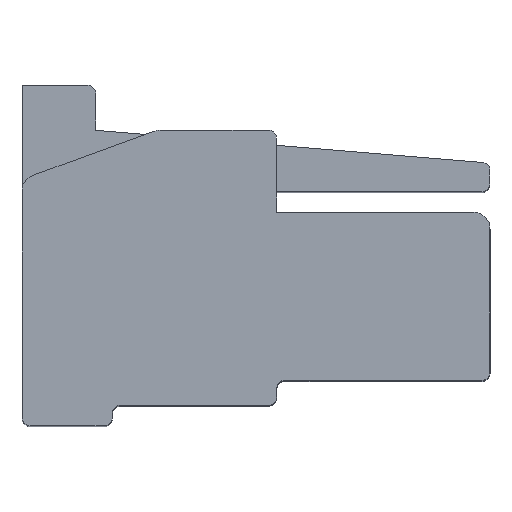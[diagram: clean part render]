
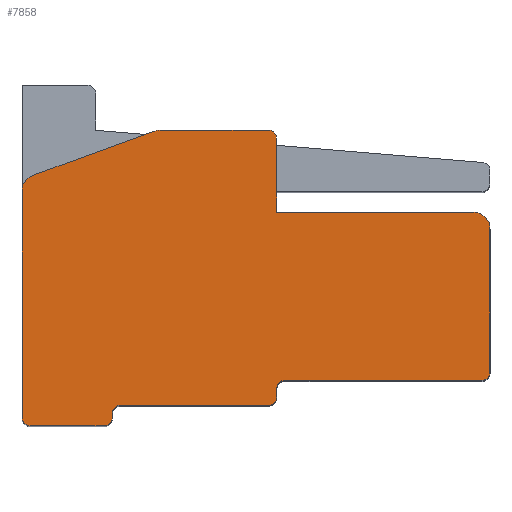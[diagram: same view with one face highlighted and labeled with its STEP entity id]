
A CAD part, top view. The second image highlights one B-rep face of the part: STEP entity #7858.
In plain terms, the highlighted planar face has unit normal (0, 0, 1).
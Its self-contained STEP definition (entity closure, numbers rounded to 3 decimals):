
#190=PLANE('',#8427);
#459=FACE_OUTER_BOUND('',#874,.T.);
#874=EDGE_LOOP('',(#5555,#5556,#5557,#5558,#5559,#5560,#5561,#5562,#5563,
#5564,#5565,#5566,#5567,#5568,#5569,#5570,#5571,#5572,#5573,#5574,#5575));
#1395=LINE('',#11854,#2289);
#1426=LINE('',#11920,#2320);
#1427=LINE('',#11924,#2321);
#1428=LINE('',#11928,#2322);
#1429=LINE('',#11932,#2323);
#1430=LINE('',#11936,#2324);
#1431=LINE('',#11940,#2325);
#1432=LINE('',#11944,#2326);
#1433=LINE('',#11948,#2327);
#1434=LINE('',#11952,#2328);
#1435=LINE('',#11955,#2329);
#2289=VECTOR('',#9454,10.);
#2320=VECTOR('',#9493,10.);
#2321=VECTOR('',#9496,10.);
#2322=VECTOR('',#9499,10.);
#2323=VECTOR('',#9502,10.);
#2324=VECTOR('',#9505,10.);
#2325=VECTOR('',#9508,10.);
#2326=VECTOR('',#9511,10.);
#2327=VECTOR('',#9514,10.);
#2328=VECTOR('',#9517,10.);
#2329=VECTOR('',#9520,10.);
#3097=CIRCLE('',#8425,0.1);
#3099=CIRCLE('',#8428,0.2);
#3100=CIRCLE('',#8429,0.2);
#3101=CIRCLE('',#8430,0.1);
#3102=CIRCLE('',#8431,0.1);
#3103=CIRCLE('',#8432,0.1);
#3104=CIRCLE('',#8433,0.1);
#3105=CIRCLE('',#8434,0.1);
#3106=CIRCLE('',#8435,0.1);
#3107=CIRCLE('',#8436,0.2);
#3444=VERTEX_POINT('',#11851);
#3445=VERTEX_POINT('',#11853);
#3474=VERTEX_POINT('',#11913);
#3476=VERTEX_POINT('',#11919);
#3477=VERTEX_POINT('',#11921);
#3478=VERTEX_POINT('',#11923);
#3479=VERTEX_POINT('',#11925);
#3480=VERTEX_POINT('',#11927);
#3481=VERTEX_POINT('',#11929);
#3482=VERTEX_POINT('',#11931);
#3483=VERTEX_POINT('',#11933);
#3484=VERTEX_POINT('',#11935);
#3485=VERTEX_POINT('',#11937);
#3486=VERTEX_POINT('',#11939);
#3487=VERTEX_POINT('',#11941);
#3488=VERTEX_POINT('',#11943);
#3489=VERTEX_POINT('',#11945);
#3490=VERTEX_POINT('',#11947);
#3491=VERTEX_POINT('',#11949);
#3492=VERTEX_POINT('',#11951);
#3493=VERTEX_POINT('',#11953);
#4264=EDGE_CURVE('',#3445,#3444,#1395,.T.);
#4294=EDGE_CURVE('',#3474,#3444,#3097,.T.);
#4297=EDGE_CURVE('',#3474,#3476,#1426,.T.);
#4298=EDGE_CURVE('',#3477,#3476,#3099,.T.);
#4299=EDGE_CURVE('',#3477,#3478,#1427,.T.);
#4300=EDGE_CURVE('',#3479,#3478,#3100,.T.);
#4301=EDGE_CURVE('',#3479,#3480,#1428,.T.);
#4302=EDGE_CURVE('',#3481,#3480,#3101,.T.);
#4303=EDGE_CURVE('',#3481,#3482,#1429,.T.);
#4304=EDGE_CURVE('',#3483,#3482,#3102,.T.);
#4305=EDGE_CURVE('',#3483,#3484,#1430,.T.);
#4306=EDGE_CURVE('',#3485,#3484,#3103,.T.);
#4307=EDGE_CURVE('',#3485,#3486,#1431,.T.);
#4308=EDGE_CURVE('',#3487,#3486,#3104,.T.);
#4309=EDGE_CURVE('',#3487,#3488,#1432,.T.);
#4310=EDGE_CURVE('',#3489,#3488,#3105,.T.);
#4311=EDGE_CURVE('',#3489,#3490,#1433,.T.);
#4312=EDGE_CURVE('',#3491,#3490,#3106,.T.);
#4313=EDGE_CURVE('',#3491,#3492,#1434,.T.);
#4314=EDGE_CURVE('',#3493,#3492,#3107,.T.);
#4315=EDGE_CURVE('',#3493,#3445,#1435,.T.);
#5555=ORIENTED_EDGE('',*,*,#4294,.F.);
#5556=ORIENTED_EDGE('',*,*,#4297,.T.);
#5557=ORIENTED_EDGE('',*,*,#4298,.F.);
#5558=ORIENTED_EDGE('',*,*,#4299,.T.);
#5559=ORIENTED_EDGE('',*,*,#4300,.F.);
#5560=ORIENTED_EDGE('',*,*,#4301,.T.);
#5561=ORIENTED_EDGE('',*,*,#4302,.F.);
#5562=ORIENTED_EDGE('',*,*,#4303,.T.);
#5563=ORIENTED_EDGE('',*,*,#4304,.F.);
#5564=ORIENTED_EDGE('',*,*,#4305,.T.);
#5565=ORIENTED_EDGE('',*,*,#4306,.F.);
#5566=ORIENTED_EDGE('',*,*,#4307,.T.);
#5567=ORIENTED_EDGE('',*,*,#4308,.F.);
#5568=ORIENTED_EDGE('',*,*,#4309,.T.);
#5569=ORIENTED_EDGE('',*,*,#4310,.F.);
#5570=ORIENTED_EDGE('',*,*,#4311,.T.);
#5571=ORIENTED_EDGE('',*,*,#4312,.F.);
#5572=ORIENTED_EDGE('',*,*,#4313,.T.);
#5573=ORIENTED_EDGE('',*,*,#4314,.F.);
#5574=ORIENTED_EDGE('',*,*,#4315,.T.);
#5575=ORIENTED_EDGE('',*,*,#4264,.T.);
#7858=ADVANCED_FACE('',(#459),#190,.T.);
#8425=AXIS2_PLACEMENT_3D('',#11914,#9486,#9487);
#8427=AXIS2_PLACEMENT_3D('',#11918,#9491,#9492);
#8428=AXIS2_PLACEMENT_3D('',#11922,#9494,#9495);
#8429=AXIS2_PLACEMENT_3D('',#11926,#9497,#9498);
#8430=AXIS2_PLACEMENT_3D('',#11930,#9500,#9501);
#8431=AXIS2_PLACEMENT_3D('',#11934,#9503,#9504);
#8432=AXIS2_PLACEMENT_3D('',#11938,#9506,#9507);
#8433=AXIS2_PLACEMENT_3D('',#11942,#9509,#9510);
#8434=AXIS2_PLACEMENT_3D('',#11946,#9512,#9513);
#8435=AXIS2_PLACEMENT_3D('',#11950,#9515,#9516);
#8436=AXIS2_PLACEMENT_3D('',#11954,#9518,#9519);
#9454=DIRECTION('',(0.,1.,0.));
#9486=DIRECTION('center_axis',(0.,0.,-1.));
#9487=DIRECTION('ref_axis',(0.707,0.707,0.));
#9491=DIRECTION('center_axis',(0.,0.,1.));
#9492=DIRECTION('ref_axis',(1.,0.,0.));
#9493=DIRECTION('',(-1.,0.,0.));
#9494=DIRECTION('center_axis',(0.,0.,-1.));
#9495=DIRECTION('ref_axis',(-0.174,0.985,0.));
#9496=DIRECTION('',(-0.94,-0.342,0.));
#9497=DIRECTION('center_axis',(0.,0.,-1.));
#9498=DIRECTION('ref_axis',(-0.819,0.574,0.));
#9499=DIRECTION('',(0.,-1.,0.));
#9500=DIRECTION('center_axis',(0.,0.,-1.));
#9501=DIRECTION('ref_axis',(-0.707,-0.707,0.));
#9502=DIRECTION('',(1.,0.,0.));
#9503=DIRECTION('center_axis',(0.,0.,-1.));
#9504=DIRECTION('ref_axis',(0.707,-0.707,0.));
#9505=DIRECTION('',(0.,1.,0.));
#9506=DIRECTION('center_axis',(0.,0.,1.));
#9507=DIRECTION('ref_axis',(-0.707,0.707,0.));
#9508=DIRECTION('',(1.,0.,0.));
#9509=DIRECTION('center_axis',(0.,0.,-1.));
#9510=DIRECTION('ref_axis',(0.707,-0.707,0.));
#9511=DIRECTION('',(0.,1.,0.));
#9512=DIRECTION('center_axis',(0.,0.,1.));
#9513=DIRECTION('ref_axis',(-0.707,0.707,0.));
#9514=DIRECTION('',(1.,0.,0.));
#9515=DIRECTION('center_axis',(0.,0.,-1.));
#9516=DIRECTION('ref_axis',(0.707,-0.707,0.));
#9517=DIRECTION('',(0.,1.,0.));
#9518=DIRECTION('center_axis',(0.,0.,-1.));
#9519=DIRECTION('ref_axis',(0.707,0.707,0.));
#9520=DIRECTION('',(-1.,0.,0.));
#11851=CARTESIAN_POINT('',(3.1,3.5,4.375));
#11853=CARTESIAN_POINT('',(3.1,2.6,4.375));
#11854=CARTESIAN_POINT('',(3.1,2.338,4.375));
#11913=CARTESIAN_POINT('',(3.,3.6,4.375));
#11914=CARTESIAN_POINT('Origin',(3.,3.5,4.375));
#11918=CARTESIAN_POINT('Origin',(2.85,2.075,4.375));
#11919=CARTESIAN_POINT('',(1.685,3.6,4.375));
#11920=CARTESIAN_POINT('',(2.975,3.6,4.375));
#11921=CARTESIAN_POINT('',(1.617,3.588,4.375));
#11922=CARTESIAN_POINT('Origin',(1.685,3.4,4.375));
#11923=CARTESIAN_POINT('',(0.132,3.048,4.375));
#11924=CARTESIAN_POINT('',(1.935,3.704,4.375));
#11925=CARTESIAN_POINT('',(0.,2.86,4.375));
#11926=CARTESIAN_POINT('Origin',(0.2,2.86,4.375));
#11927=CARTESIAN_POINT('',(0.,0.1,4.375));
#11928=CARTESIAN_POINT('',(0.,0.,4.375));
#11929=CARTESIAN_POINT('',(0.1,0.,4.375));
#11930=CARTESIAN_POINT('Origin',(0.1,0.1,4.375));
#11931=CARTESIAN_POINT('',(1.,0.,4.375));
#11932=CARTESIAN_POINT('',(5.7,0.,4.375));
#11933=CARTESIAN_POINT('',(1.1,0.1,4.375));
#11934=CARTESIAN_POINT('Origin',(1.,0.1,4.375));
#11935=CARTESIAN_POINT('',(1.1,0.15,4.375));
#11936=CARTESIAN_POINT('',(1.1,1.038,4.375));
#11937=CARTESIAN_POINT('',(1.2,0.25,4.375));
#11938=CARTESIAN_POINT('Origin',(1.2,0.15,4.375));
#11939=CARTESIAN_POINT('',(3.,0.25,4.375));
#11940=CARTESIAN_POINT('',(1.975,0.25,4.375));
#11941=CARTESIAN_POINT('',(3.1,0.35,4.375));
#11942=CARTESIAN_POINT('Origin',(3.,0.35,4.375));
#11943=CARTESIAN_POINT('',(3.1,0.45,4.375));
#11944=CARTESIAN_POINT('',(3.1,1.163,4.375));
#11945=CARTESIAN_POINT('',(3.2,0.55,4.375));
#11946=CARTESIAN_POINT('Origin',(3.2,0.45,4.375));
#11947=CARTESIAN_POINT('',(5.6,0.55,4.375));
#11948=CARTESIAN_POINT('',(2.975,0.55,4.375));
#11949=CARTESIAN_POINT('',(5.7,0.65,4.375));
#11950=CARTESIAN_POINT('Origin',(5.6,0.65,4.375));
#11951=CARTESIAN_POINT('',(5.7,2.4,4.375));
#11952=CARTESIAN_POINT('',(5.7,4.15,4.375));
#11953=CARTESIAN_POINT('',(5.5,2.6,4.375));
#11954=CARTESIAN_POINT('Origin',(5.5,2.4,4.375));
#11955=CARTESIAN_POINT('',(4.275,2.6,4.375));
